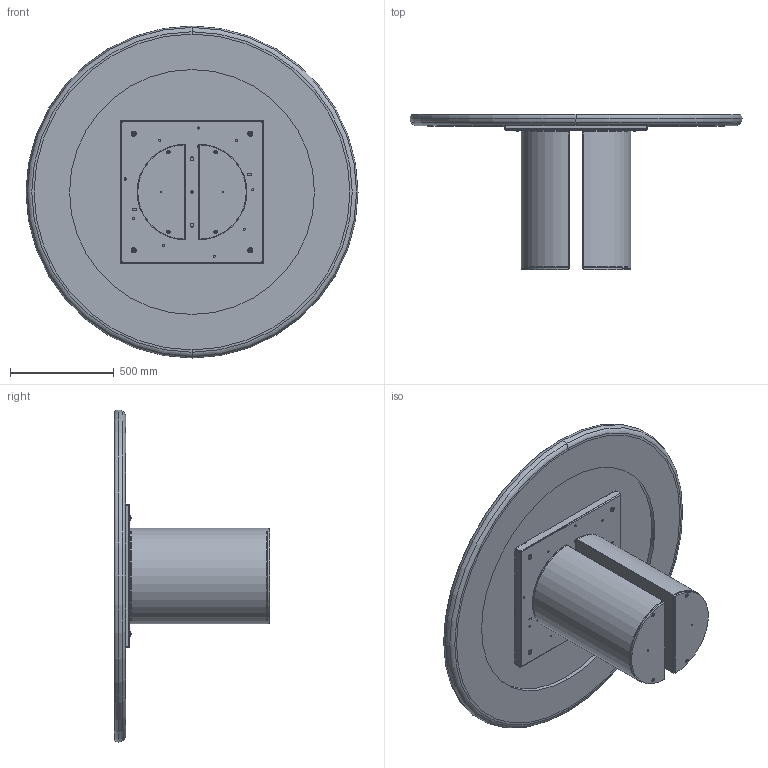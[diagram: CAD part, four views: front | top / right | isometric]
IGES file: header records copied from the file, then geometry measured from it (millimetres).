
Start section: SolidWorks IGES file using analytic representation for surfaces
Global section: file name: Y:\eforma\TECNICO\SOLIDWORKS\E-FORMA\1-TAVOLI\DORA\08 modelli 3D web\DR07K_Dora_d.160_King.IGS; native system: SolidWorks 2022; preprocessor: SolidWorks 2022; author: eforma.tech; date: 240801.150837; units: millimetre
Bounding box: 1600 x 750 x 1600 mm (x, y, z)
Volume: 96104829.8 mm3; surface area: 13255342.8 mm2
Topology: 37 solids, 37 shells, 1068 faces, 2572 edges, 1564 vertices
Faces by surface type: revolution 594, plane 474
